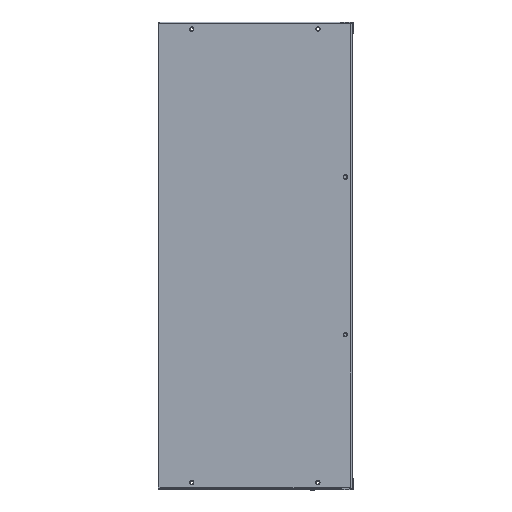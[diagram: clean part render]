
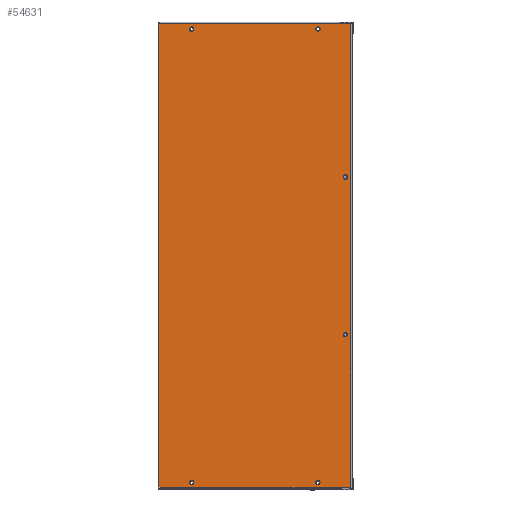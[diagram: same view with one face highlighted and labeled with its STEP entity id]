
A CAD part, top view. The second image highlights one B-rep face of the part: STEP entity #54631.
In plain terms, the highlighted planar face has unit normal (0, 0, 1).
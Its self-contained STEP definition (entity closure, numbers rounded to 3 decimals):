
#52836=CARTESIAN_POINT(' ',(-117.5,100.,0.));
#52837=VERTEX_POINT(' ',#52836);
#52851=CARTESIAN_POINT(' ',(-114.75,100.,0.));
#52856=DIRECTION(' ',(0.,-0.,1.));
#52861=DIRECTION(' ',(-1.,0.,0.));
#52866=AXIS2_PLACEMENT_3D(' ',#52851,#52856,#52861);
#52871=CIRCLE('',#52866,2.75);
#52876=CARTESIAN_POINT(' ',(-112.,100.,0.));
#52877=VERTEX_POINT(' ',#52876);
#52881=EDGE_CURVE(' ',#52837,#52877,#52871,.T.);
#53796=CARTESIAN_POINT(' ',(-114.75,100.,0.));
#53801=DIRECTION(' ',(0.,0.,1.));
#53806=DIRECTION(' ',(1.,0.,0.));
#53811=AXIS2_PLACEMENT_3D(' ',#53796,#53801,#53806);
#53816=CIRCLE('',#53811,2.75);
#53821=EDGE_CURVE(' ',#52877,#52837,#53816,.T.);
#53846=DIRECTION(' ',(0.,-0.,1.));
#53851=CARTESIAN_POINT(' ',(-121.75,-294.,0.));
#53856=DIRECTION(' ',(1.,0.,-0.));
#53861=AXIS2_PLACEMENT_3D(' ',#53851,#53846,#53856);
#53866=PLANE('NONE',#53861);
#53871=CARTESIAN_POINT(' ',(-121.75,292.,0.));
#53876=DIRECTION(' ',(0.,-1.,0.));
#53881=VECTOR(' ',#53876,1.);
#53886=LINE('',#53871,#53881);
#53891=CARTESIAN_POINT(' ',(-121.75,292.,0.));
#53892=VERTEX_POINT(' ',#53891);
#53896=CARTESIAN_POINT(' ',(-121.75,-292.,0.));
#53897=VERTEX_POINT(' ',#53896);
#53901=EDGE_CURVE(' ',#53892,#53897,#53886,.T.);
#53906=ORIENTED_EDGE(' ',*,*,#53901,.T.);
#53911=CARTESIAN_POINT(' ',(-121.75,-292.,0.));
#53916=DIRECTION(' ',(0.707,-0.707,0.));
#53921=VECTOR(' ',#53916,1.);
#53926=LINE('',#53911,#53921);
#53931=CARTESIAN_POINT(' ',(-119.75,-294.,0.));
#53932=VERTEX_POINT(' ',#53931);
#53936=EDGE_CURVE(' ',#53897,#53932,#53926,.T.);
#53941=ORIENTED_EDGE(' ',*,*,#53936,.T.);
#53946=CARTESIAN_POINT(' ',(-119.75,-294.,0.));
#53951=DIRECTION(' ',(1.,0.,0.));
#53956=VECTOR(' ',#53951,1.);
#53961=LINE('',#53946,#53956);
#53966=CARTESIAN_POINT(' ',(119.75,-294.,0.));
#53967=VERTEX_POINT(' ',#53966);
#53971=EDGE_CURVE(' ',#53932,#53967,#53961,.T.);
#53976=ORIENTED_EDGE(' ',*,*,#53971,.T.);
#53981=CARTESIAN_POINT(' ',(119.75,-294.,0.));
#53986=DIRECTION(' ',(0.707,0.707,0.));
#53991=VECTOR(' ',#53986,1.);
#53996=LINE('',#53981,#53991);
#54001=CARTESIAN_POINT(' ',(121.75,-292.,0.));
#54002=VERTEX_POINT(' ',#54001);
#54006=EDGE_CURVE(' ',#53967,#54002,#53996,.T.);
#54011=ORIENTED_EDGE(' ',*,*,#54006,.T.);
#54016=CARTESIAN_POINT(' ',(121.75,-292.,0.));
#54021=DIRECTION(' ',(0.,1.,0.));
#54026=VECTOR(' ',#54021,1.);
#54031=LINE('',#54016,#54026);
#54036=CARTESIAN_POINT(' ',(121.75,292.,0.));
#54037=VERTEX_POINT(' ',#54036);
#54041=EDGE_CURVE(' ',#54002,#54037,#54031,.T.);
#54046=ORIENTED_EDGE(' ',*,*,#54041,.T.);
#54051=CARTESIAN_POINT(' ',(121.75,292.,0.));
#54056=DIRECTION(' ',(-0.707,0.707,0.));
#54061=VECTOR(' ',#54056,1.);
#54066=LINE('',#54051,#54061);
#54071=CARTESIAN_POINT(' ',(119.75,294.,0.));
#54072=VERTEX_POINT(' ',#54071);
#54076=EDGE_CURVE(' ',#54037,#54072,#54066,.T.);
#54081=ORIENTED_EDGE(' ',*,*,#54076,.T.);
#54086=CARTESIAN_POINT(' ',(119.75,294.,0.));
#54091=DIRECTION(' ',(-1.,0.,0.));
#54096=VECTOR(' ',#54091,1.);
#54101=LINE('',#54086,#54096);
#54106=CARTESIAN_POINT(' ',(-119.75,294.,0.));
#54107=VERTEX_POINT(' ',#54106);
#54111=EDGE_CURVE(' ',#54072,#54107,#54101,.T.);
#54116=ORIENTED_EDGE(' ',*,*,#54111,.T.);
#54121=CARTESIAN_POINT(' ',(-119.75,294.,0.));
#54126=DIRECTION(' ',(-0.707,-0.707,0.));
#54131=VECTOR(' ',#54126,1.);
#54136=LINE('',#54121,#54131);
#54141=EDGE_CURVE(' ',#54107,#53892,#54136,.T.);
#54146=ORIENTED_EDGE(' ',*,*,#54141,.T.);
#54151=EDGE_LOOP(' ',(#53906,#53941,#53976,#54011,#54046,#54081,#54116,#54146));
#54156=FACE_OUTER_BOUND(' ',#54151,.T.);
#54161=ORIENTED_EDGE(' ',*,*,#53821,.F.);
#54166=ORIENTED_EDGE(' ',*,*,#52881,.F.);
#54171=EDGE_LOOP(' ',(#54161,#54166));
#54176=FACE_BOUND(' ',#54171,.T.);
#54181=CARTESIAN_POINT(' ',(-80.,-287.5,0.));
#54186=DIRECTION(' ',(0.,0.,1.));
#54191=DIRECTION(' ',(1.,0.,0.));
#54196=AXIS2_PLACEMENT_3D(' ',#54181,#54186,#54191);
#54201=CIRCLE('',#54196,2.75);
#54206=CARTESIAN_POINT(' ',(-77.25,-287.5,0.));
#54207=VERTEX_POINT(' ',#54206);
#54211=CARTESIAN_POINT(' ',(-82.75,-287.5,0.));
#54212=VERTEX_POINT(' ',#54211);
#54216=EDGE_CURVE(' ',#54207,#54212,#54201,.T.);
#54221=ORIENTED_EDGE(' ',*,*,#54216,.F.);
#54226=CARTESIAN_POINT(' ',(-80.,-287.5,0.));
#54231=DIRECTION(' ',(0.,-0.,1.));
#54236=DIRECTION(' ',(-1.,0.,0.));
#54241=AXIS2_PLACEMENT_3D(' ',#54226,#54231,#54236);
#54246=CIRCLE('',#54241,2.75);
#54251=EDGE_CURVE(' ',#54212,#54207,#54246,.T.);
#54256=ORIENTED_EDGE(' ',*,*,#54251,.F.);
#54261=EDGE_LOOP(' ',(#54221,#54256));
#54266=FACE_BOUND(' ',#54261,.T.);
#54271=CARTESIAN_POINT(' ',(80.,-287.5,0.));
#54276=DIRECTION(' ',(0.,0.,1.));
#54281=DIRECTION(' ',(1.,0.,0.));
#54286=AXIS2_PLACEMENT_3D(' ',#54271,#54276,#54281);
#54291=CIRCLE('',#54286,2.75);
#54296=CARTESIAN_POINT(' ',(82.75,-287.5,0.));
#54297=VERTEX_POINT(' ',#54296);
#54301=CARTESIAN_POINT(' ',(77.25,-287.5,0.));
#54302=VERTEX_POINT(' ',#54301);
#54306=EDGE_CURVE(' ',#54297,#54302,#54291,.T.);
#54311=ORIENTED_EDGE(' ',*,*,#54306,.F.);
#54316=CARTESIAN_POINT(' ',(80.,-287.5,0.));
#54321=DIRECTION(' ',(0.,-0.,1.));
#54326=DIRECTION(' ',(-1.,0.,0.));
#54331=AXIS2_PLACEMENT_3D(' ',#54316,#54321,#54326);
#54336=CIRCLE('',#54331,2.75);
#54341=EDGE_CURVE(' ',#54302,#54297,#54336,.T.);
#54346=ORIENTED_EDGE(' ',*,*,#54341,.F.);
#54351=EDGE_LOOP(' ',(#54311,#54346));
#54356=FACE_BOUND(' ',#54351,.T.);
#54361=CARTESIAN_POINT(' ',(80.,287.5,0.));
#54366=DIRECTION(' ',(0.,0.,1.));
#54371=DIRECTION(' ',(1.,0.,0.));
#54376=AXIS2_PLACEMENT_3D(' ',#54361,#54366,#54371);
#54381=CIRCLE('',#54376,2.75);
#54386=CARTESIAN_POINT(' ',(82.75,287.5,0.));
#54387=VERTEX_POINT(' ',#54386);
#54391=CARTESIAN_POINT(' ',(77.25,287.5,0.));
#54392=VERTEX_POINT(' ',#54391);
#54396=EDGE_CURVE(' ',#54387,#54392,#54381,.T.);
#54401=ORIENTED_EDGE(' ',*,*,#54396,.F.);
#54406=CARTESIAN_POINT(' ',(80.,287.5,0.));
#54411=DIRECTION(' ',(0.,-0.,1.));
#54416=DIRECTION(' ',(-1.,0.,0.));
#54421=AXIS2_PLACEMENT_3D(' ',#54406,#54411,#54416);
#54426=CIRCLE('',#54421,2.75);
#54431=EDGE_CURVE(' ',#54392,#54387,#54426,.T.);
#54436=ORIENTED_EDGE(' ',*,*,#54431,.F.);
#54441=EDGE_LOOP(' ',(#54401,#54436));
#54446=FACE_BOUND(' ',#54441,.T.);
#54451=CARTESIAN_POINT(' ',(-80.,287.5,0.));
#54456=DIRECTION(' ',(0.,0.,1.));
#54461=DIRECTION(' ',(1.,0.,0.));
#54466=AXIS2_PLACEMENT_3D(' ',#54451,#54456,#54461);
#54471=CIRCLE('',#54466,2.75);
#54476=CARTESIAN_POINT(' ',(-77.25,287.5,0.));
#54477=VERTEX_POINT(' ',#54476);
#54481=CARTESIAN_POINT(' ',(-82.75,287.5,0.));
#54482=VERTEX_POINT(' ',#54481);
#54486=EDGE_CURVE(' ',#54477,#54482,#54471,.T.);
#54491=ORIENTED_EDGE(' ',*,*,#54486,.F.);
#54496=CARTESIAN_POINT(' ',(-80.,287.5,0.));
#54501=DIRECTION(' ',(0.,-0.,1.));
#54506=DIRECTION(' ',(-1.,0.,0.));
#54511=AXIS2_PLACEMENT_3D(' ',#54496,#54501,#54506);
#54516=CIRCLE('',#54511,2.75);
#54521=EDGE_CURVE(' ',#54482,#54477,#54516,.T.);
#54526=ORIENTED_EDGE(' ',*,*,#54521,.F.);
#54531=EDGE_LOOP(' ',(#54491,#54526));
#54536=FACE_BOUND(' ',#54531,.T.);
#54541=CARTESIAN_POINT(' ',(-114.75,-100.,0.));
#54546=DIRECTION(' ',(0.,0.,1.));
#54551=DIRECTION(' ',(1.,0.,0.));
#54556=AXIS2_PLACEMENT_3D(' ',#54541,#54546,#54551);
#54561=CIRCLE('',#54556,2.75);
#54566=CARTESIAN_POINT(' ',(-112.,-100.,0.));
#54567=VERTEX_POINT(' ',#54566);
#54571=CARTESIAN_POINT(' ',(-117.5,-100.,0.));
#54572=VERTEX_POINT(' ',#54571);
#54576=EDGE_CURVE(' ',#54567,#54572,#54561,.T.);
#54581=ORIENTED_EDGE(' ',*,*,#54576,.F.);
#54586=CARTESIAN_POINT(' ',(-114.75,-100.,0.));
#54591=DIRECTION(' ',(0.,-0.,1.));
#54596=DIRECTION(' ',(-1.,0.,0.));
#54601=AXIS2_PLACEMENT_3D(' ',#54586,#54591,#54596);
#54606=CIRCLE('',#54601,2.75);
#54611=EDGE_CURVE(' ',#54572,#54567,#54606,.T.);
#54616=ORIENTED_EDGE(' ',*,*,#54611,.F.);
#54621=EDGE_LOOP(' ',(#54581,#54616));
#54626=FACE_BOUND(' ',#54621,.T.);
#54631=ADVANCED_FACE('NONE',(#54156,#54176,#54266,#54356,#54446,#54536,#54626),#53866,.T.);
